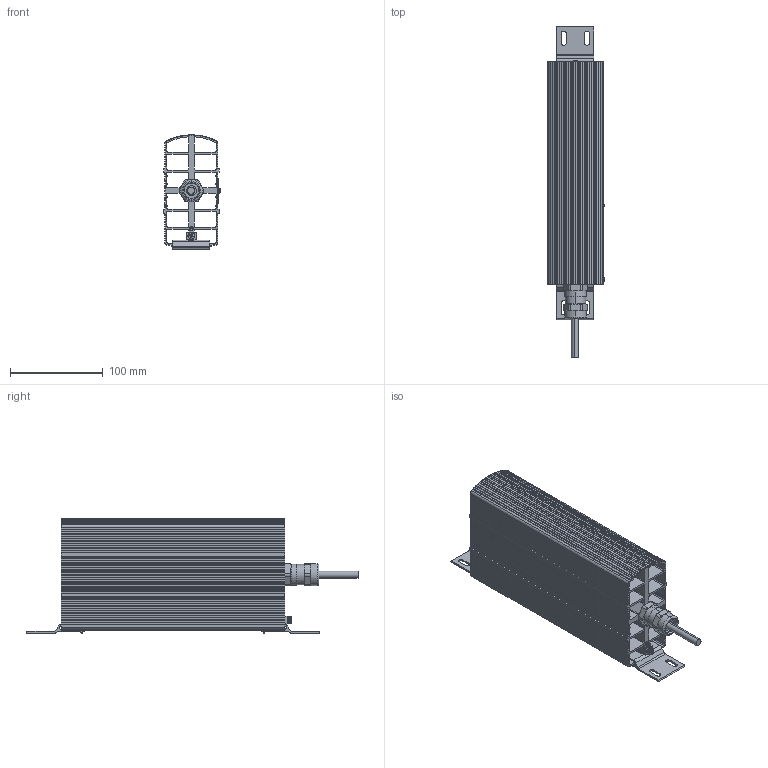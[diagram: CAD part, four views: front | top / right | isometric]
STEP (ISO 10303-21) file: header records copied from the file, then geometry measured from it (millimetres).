
FILE_DESCRIPTION (( 'STEP AP214' ), '1' );
FILE_NAME ('02034.x-1x_Ex-Heizgeraet.STEP', '2017-08-09T07:53:04', ( '' ), ( '' ), 'SwSTEP 2.0', 'SolidWorks 2017', '' );
FILE_SCHEMA (( 'AUTOMOTIVE_DESIGN' ));
Length unit declared in the file: millimetre
Products named in the file (1): 02034.x-1x_Ex-Heizgeraet
Bounding box: 61.16 x 357 x 122.8 mm (x, y, z)
Surface area: 336507.1 mm2 (no closed solid volume)
Topology: 0 solids, 13 shells, 666 faces, 2527 edges, 1750 vertices
Faces by surface type: plane 477, cylinder 156, torus 14, cone 12, sphere 6, bspline 1
Entity records: 33987 total; most frequent: CARTESIAN_POINT 5563, ORIENTED_EDGE 4236, DIRECTION 4179, EDGE_CURVE 2527, VECTOR 2017, LINE 2017, VERTEX_POINT 1750, AXIS2_PLACEMENT_3D 1081
